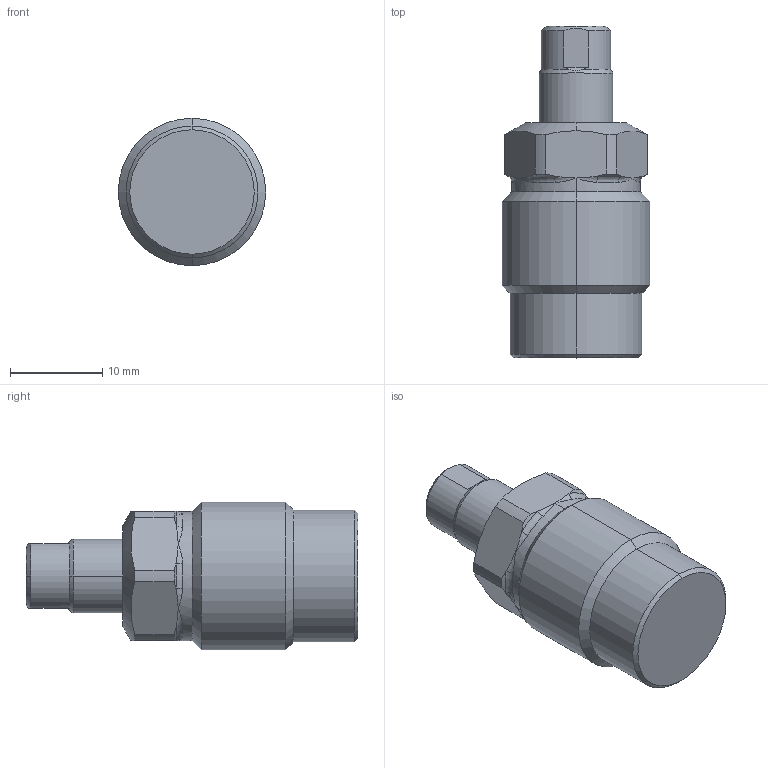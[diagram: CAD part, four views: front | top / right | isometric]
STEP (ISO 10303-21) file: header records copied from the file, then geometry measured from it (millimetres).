
FILE_DESCRIPTION((' '),'2;1');
FILE_NAME( 'TGM01-05.x_t.stp', '2024-08-27T13:43:48', (' '), ('--- Datakit www.datakit.com---'), ' Datakit CrossCadWare V2024.1 Dec 21 2023', 'Mastercam 2025', ' ');
FILE_SCHEMA(('AUTOMOTIVE_DESIGN { 1 0 10303 214 1 1 1 1 }'));
Length unit declared in the file: millimetre
Products named in the file (1): TGM01-05
Bounding box: 16 x 36 x 16 mm (x, y, z)
Volume: 4541.6 mm3; surface area: 2152.2 mm2
Topology: 2 solids, 2 shells, 77 faces, 189 edges, 107 vertices
Faces by surface type: cylinder 22, cone 20, plane 17, bspline 12, torus 6
Entity records: 3763 total; most frequent: CARTESIAN_POINT 2052, ORIENTED_EDGE 354, DIRECTION 348, EDGE_CURVE 177, AXIS2_PLACEMENT_3D 151, VERTEX_POINT 107, EDGE_LOOP 80, CIRCLE 79
